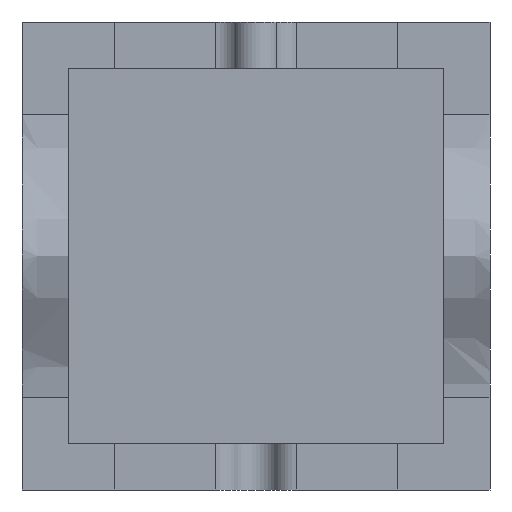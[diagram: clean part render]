
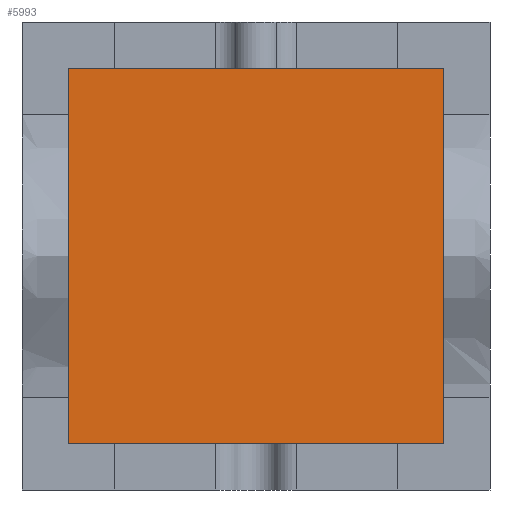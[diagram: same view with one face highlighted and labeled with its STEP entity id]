
A CAD part, front view. The second image highlights one B-rep face of the part: STEP entity #5993.
In plain terms, the highlighted planar face has unit normal (0, -1, 0).
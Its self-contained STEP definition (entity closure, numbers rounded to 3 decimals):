
#5867=CARTESIAN_POINT('Vertex',(-20.,-30.,-20.)) ;
#5872=CARTESIAN_POINT('Line Origine',(-20.,-30.,61.)) ;
#5876=CARTESIAN_POINT('Vertex',(-20.,-30.,142.)) ;
#5903=CARTESIAN_POINT('Line Origine',(61.,-30.,142.)) ;
#5907=CARTESIAN_POINT('Vertex',(142.,-30.,142.)) ;
#5934=CARTESIAN_POINT('Line Origine',(142.,-30.,61.)) ;
#5938=CARTESIAN_POINT('Vertex',(142.,-30.,-20.)) ;
#5965=CARTESIAN_POINT('Line Origine',(61.,-30.,-20.)) ;
#5982=CARTESIAN_POINT('Axis2P3D Location',(0.,-30.,0.)) ;
#5873=DIRECTION('Vector Direction',(0.,0.,-1.)) ;
#5904=DIRECTION('Vector Direction',(1.,0.,0.)) ;
#5935=DIRECTION('Vector Direction',(0.,0.,1.)) ;
#5966=DIRECTION('Vector Direction',(-1.,0.,0.)) ;
#5983=DIRECTION('Axis2P3D Direction',(0.,1.,0.)) ;
#5984=DIRECTION('Axis2P3D XDirection',(-1.,0.,0.)) ;
#5985=AXIS2_PLACEMENT_3D('Plane Axis2P3D',#5982,#5983,#5984) ;
#5988=ORIENTED_EDGE('',*,*,#5969,.F.) ;
#5989=ORIENTED_EDGE('',*,*,#5940,.F.) ;
#5990=ORIENTED_EDGE('',*,*,#5909,.F.) ;
#5991=ORIENTED_EDGE('',*,*,#5878,.F.) ;
#5874=VECTOR('Line Direction',#5873,1.) ;
#5905=VECTOR('Line Direction',#5904,1.) ;
#5936=VECTOR('Line Direction',#5935,1.) ;
#5967=VECTOR('Line Direction',#5966,1.) ;
#5993=ADVANCED_FACE('Cavity-molde',(#5992),#5986,.F.) ;
#5878=EDGE_CURVE('',#5868,#5877,#5875,.F.) ;
#5909=EDGE_CURVE('',#5877,#5908,#5906,.T.) ;
#5940=EDGE_CURVE('',#5908,#5939,#5937,.F.) ;
#5969=EDGE_CURVE('',#5939,#5868,#5968,.T.) ;
#5987=EDGE_LOOP('',(#5988,#5989,#5990,#5991)) ;
#5992=FACE_OUTER_BOUND('',#5987,.T.) ;
#5875=LINE('Line',#5872,#5874) ;
#5906=LINE('Line',#5903,#5905) ;
#5937=LINE('Line',#5934,#5936) ;
#5968=LINE('Line',#5965,#5967) ;
#5986=PLANE('',#5985) ;
#5868=VERTEX_POINT('',#5867) ;
#5877=VERTEX_POINT('',#5876) ;
#5908=VERTEX_POINT('',#5907) ;
#5939=VERTEX_POINT('',#5938) ;
